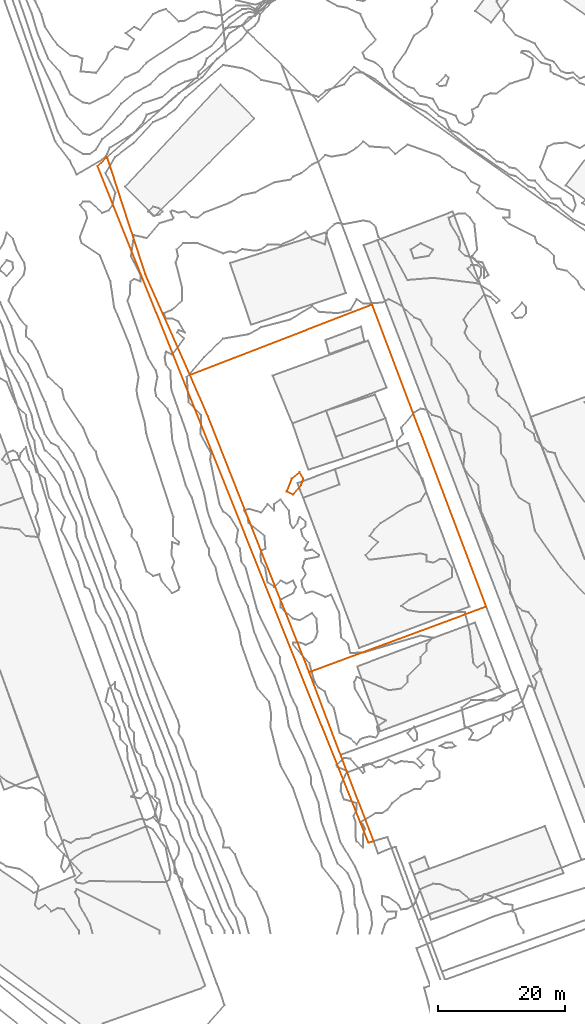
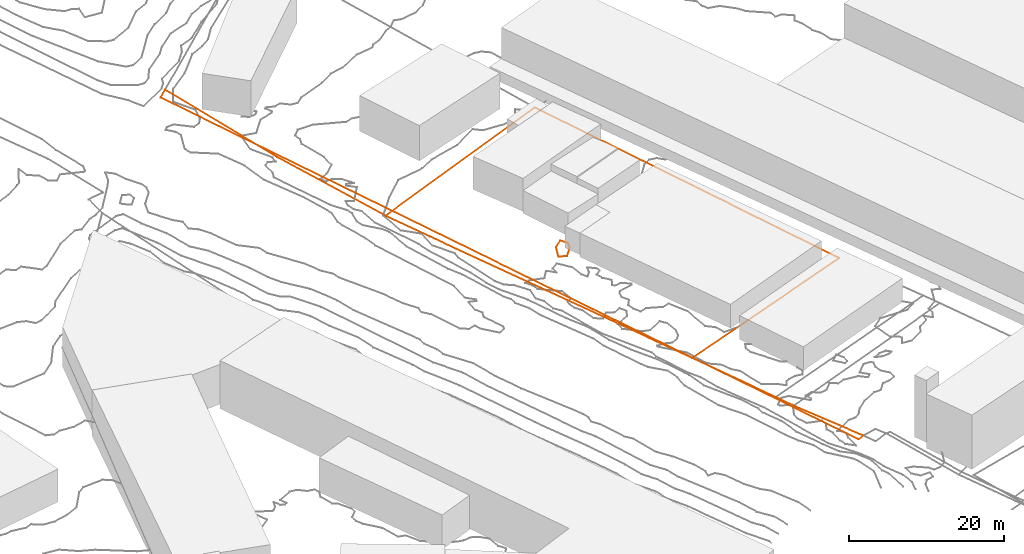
# Not in any storey, part 163 of 419: 3 proxies.
"""IFC2X3 model written with IfcOpenShell, lengths in metres."""

from ifc_helpers import new_model, entity, si_unit, frame, origin_with_axes, place, context, subcontext, project, element, save


model = new_model("IFC2X3")

# Units and contexts
model_context = context("Model", 3, precision=1e-05, world=origin_with_axes())
body_context = subcontext(model_context, "Body", "Model", "MODEL_VIEW")
ifc_project = project(units=[si_unit("AREAUNIT", "SQUARE_METRE"), si_unit("LENGTHUNIT", "METRE")], contexts=[model_context])

# Proxies
proxy_1_placement = place(None, frame((307.3620204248, 119.0376909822, 24.4228113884), z_axis=(0.0, 0.0, 1.0), x_axis=(1.0, 0.0, 0.0)))
element("IfcBuildingElementProxy", 1, at=proxy_1_placement, Name="Cadastre 362", ObjectType="NOTDEFINED", context=body_context, shape_type="GeometricCurveSet", body=[
    entity("IfcGeometricCurveSet", [entity("IfcPolyline", [entity("IfcCartesianPoint", [33.26, -79.5499999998, -4.4096000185]), entity("IfcCartesianPoint", [38.1899999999, -92.5399999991, -4.4175315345]), entity("IfcCartesianPoint", [39.25, -95.3199999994, -4.4633470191]), entity("IfcCartesianPoint", [43.4, -106.0999999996, -4.0706094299]), entity("IfcCartesianPoint", [42.58, -106.3499999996, -4.2263861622]), entity("IfcCartesianPoint", [0.0, 0.0, 0.0]), entity("IfcCartesianPoint", [1.51, 1.4200000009, -0.1693949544]), entity("IfcCartesianPoint", [7.53, -17.0899999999, -1.6534617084]), entity("IfcCartesianPoint", [14.54, -32.8299999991, -3.7837669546]), entity("IfcCartesianPoint", [17.37, -39.4099999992, -4.0748433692]), entity("IfcCartesianPoint", [33.26, -79.5499999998, -4.4096000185])])]),
])
proxy_2_placement = place(None, frame((321.9020204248, 86.2076909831, 20.6390444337), z_axis=(0.0, 0.0, 1.0), x_axis=(1.0, 0.0, 0.0)))
element("IfcBuildingElementProxy", 2, at=proxy_2_placement, Name="Cadastre 363", ObjectType="NOTDEFINED", context=body_context, shape_type="GeometricCurveSet", body=[
    entity("IfcGeometricCurveSet", [entity("IfcPolyline", [entity("IfcCartesianPoint", [18.72, -46.7200000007, -0.6258330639]), entity("IfcCartesianPoint", [2.83, -6.5800000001, -0.2910764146]), entity("IfcCartesianPoint", [0.0, 0.0, 0.0]), entity("IfcCartesianPoint", [28.62, 11.0599999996, 0.297056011]), entity("IfcCartesianPoint", [46.5499999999, -36.4100000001, -0.8939245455]), entity("IfcCartesianPoint", [18.72, -46.7200000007, -0.6258330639])])]),
])
proxy_3_placement = place(None, frame((337.0920704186, 67.8976909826, 20.0), z_axis=(0.0, 0.0, 1.0), x_axis=(1.0, 0.0, 0.0)))
element("IfcBuildingElementProxy", 3, at=proxy_3_placement, Name="Contour 20.0 m", ObjectType="NOTDEFINED", context=body_context, shape_type="GeometricCurveSet", body=[
    entity("IfcGeometricCurveSet", [entity("IfcPolyline", [entity("IfcCartesianPoint", [0.9999500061, -0.4999750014, 0.0]), entity("IfcCartesianPoint", [2.2499500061, 1.0, 0.0]), entity("IfcCartesianPoint", [2.5999500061, 2.0, 0.0]), entity("IfcCartesianPoint", [1.9999500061, 2.9999666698, 0.0]), entity("IfcCartesianPoint", [0.7999461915, 2.0, 0.0]), entity("IfcCartesianPoint", [0.0, 0.0, 0.0]), entity("IfcCartesianPoint", [0.9999500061, -0.4999750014, 0.0])])]),
])

save(model, "model.ifc")
